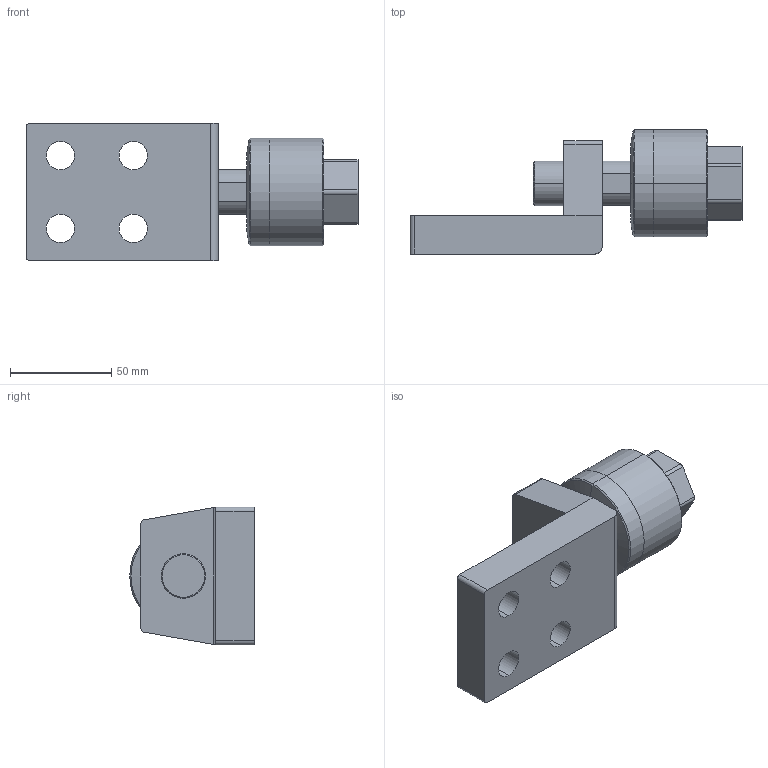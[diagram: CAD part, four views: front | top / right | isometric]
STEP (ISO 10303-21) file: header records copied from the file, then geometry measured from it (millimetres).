
FILE_DESCRIPTION (( 'STEP AP203' ), '1' );
FILE_NAME ('FCM22A-1.5-L.STEP', '2016-04-14T01:59:53', ( '' ), ( '' ), 'SwSTEP 2.0', 'SolidWorks 2014', '' );
FILE_SCHEMA (( 'CONFIG_CONTROL_DESIGN' ));
Length unit declared in the file: millimetre
Products named in the file (3): FCM22A-1.5-L; FCM22A-L; FCM22A-1.5
Assembly tree (2 placements, depth 2):
  FCM22A-1.5-L
    FCM22A-1.5
    FCM22A-L
Bounding box: 164 x 61.5 x 68 mm (x, y, z)
Volume: 256962.5 mm3; surface area: 44216.8 mm2
Topology: 2 solids, 2 shells, 72 faces, 178 edges, 111 vertices
Faces by surface type: cylinder 34, plane 28, cone 10
Entity records: 2447 total; most frequent: DIRECTION 402, CARTESIAN_POINT 370, ORIENTED_EDGE 352, EDGE_CURVE 176, AXIS2_PLACEMENT_3D 151, VERTEX_POINT 111, LINE 100, VECTOR 100
